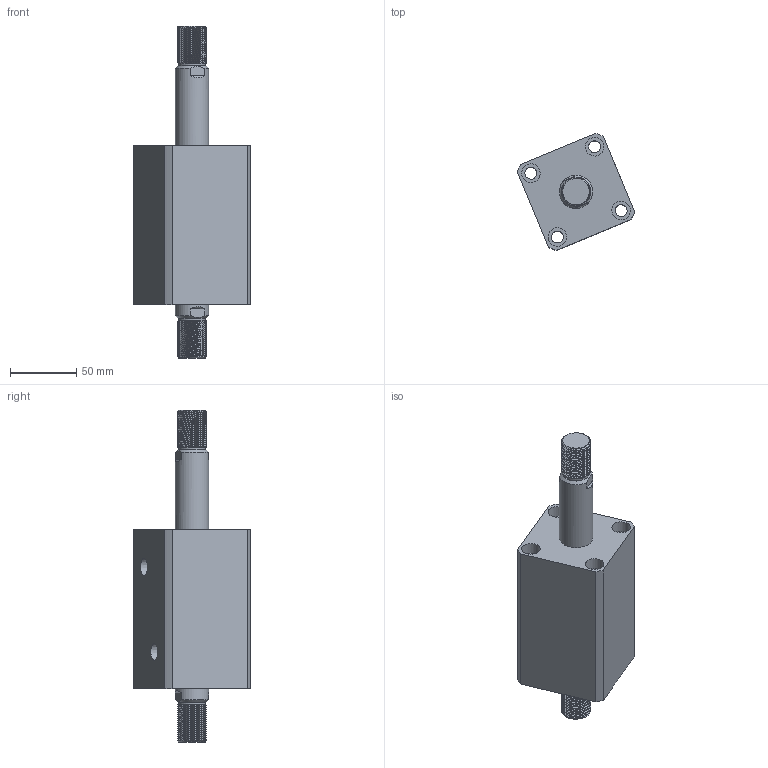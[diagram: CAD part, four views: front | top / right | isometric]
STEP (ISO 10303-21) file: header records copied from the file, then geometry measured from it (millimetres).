
FILE_DESCRIPTION(/* description */ (''),/* implementation_level */ '2;1');
FILE_NAME(/* name */ 'CHTB-sw40x50w.stp',/* time_stamp */ '2022-04-29T17:51:44+08:00',/* author */ (''),/* organization */ (''),/* preprocessor_version */ 'ST-DEVELOPER v16.7',/* originating_system */ 'SIEMENS PLM Software NX 12.0',/* authorisation */ '');
FILE_SCHEMA (('AUTOMOTIVE_DESIGN { 1 0 10303 214 3 1 1 1 }'));
Length unit declared in the file: millimetre
Products named in the file (1): CHTB-sw40x50w
Bounding box: 88.11 x 88.11 x 250 mm (x, y, z)
Volume: 558668.9 mm3; surface area: 106023.4 mm2
Topology: 3 solids, 3 shells, 473 faces, 1410 edges, 992 vertices
Faces by surface type: plane 311, extrusion 90, cylinder 43, torus 10, bspline 10, cone 9
Full cylindrical faces by diameter (mm): 4.2 x2, 5 x2, 9 x4, 10.7 x2, 14 x8, 20 x2, 25 x4, 29 x1, 34 x2, 40 x4, 45 x1
Entity records: 25776 total; most frequent: CARTESIAN_POINT 11560, ORIENTED_EDGE 2662, DIRECTION 1891, EDGE_CURVE 1331, VERTEX_POINT 968, VECTOR 937, LINE 847, EDGE_LOOP 591
